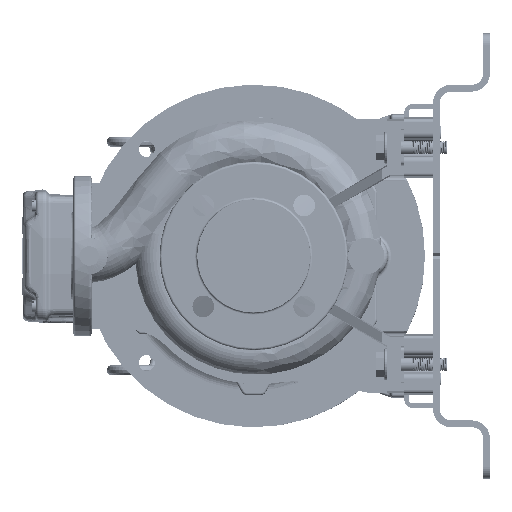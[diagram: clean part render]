
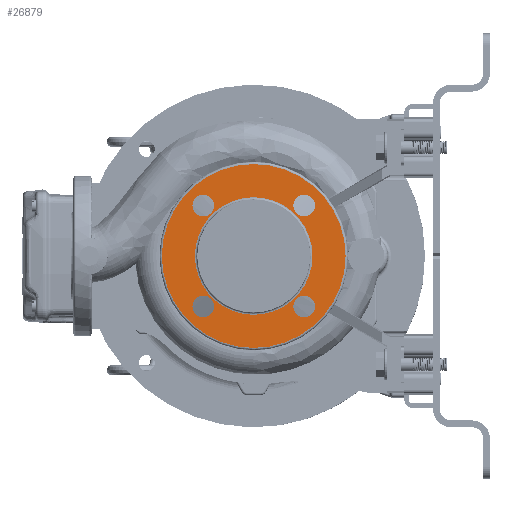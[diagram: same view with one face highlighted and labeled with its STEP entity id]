
A CAD part, left-side view. The second image highlights one B-rep face of the part: STEP entity #26879.
In plain terms, the highlighted planar face has unit normal (-1, 0, 0).
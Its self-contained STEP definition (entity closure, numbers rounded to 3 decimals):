
#75 = VERTEX_POINT ( 'NONE', #15928 ) ;
#742 = CIRCLE ( 'NONE', #62482, 9.5 ) ;
#1078 = CARTESIAN_POINT ( 'NONE',  ( -120.82, 223.159, 279.741 ) ) ;
#1136 = CARTESIAN_POINT ( 'NONE',  ( -120.82, 171.659, 279.741 ) ) ;
#5306 = DIRECTION ( 'NONE',  ( -1., 0., 0. ) ) ;
#6194 = EDGE_LOOP ( 'NONE', ( #120608, #28625 ) ) ;
#7750 = EDGE_CURVE ( 'NONE', #91010, #124955, #135408, .T. ) ;
#8225 = AXIS2_PLACEMENT_3D ( 'NONE', #20159, #116742, #103853 ) ;
#9060 = DIRECTION ( 'NONE',  ( 0., -1., 0. ) ) ;
#11325 = DIRECTION ( 'NONE',  ( 1., 0., 0. ) ) ;
#15783 = VERTEX_POINT ( 'NONE', #136907 ) ;
#15928 = CARTESIAN_POINT ( 'NONE',  ( -120.82, 91.159, 279.741 ) ) ;
#16749 = DIRECTION ( 'NONE',  ( 0., -1., 0. ) ) ;
#17593 = DIRECTION ( 'NONE',  ( 0., 1., 0. ) ) ;
#18482 = ORIENTED_EDGE ( 'NONE', *, *, #96936, .F. ) ;
#19397 = DIRECTION ( 'NONE',  ( -1., 0., 0. ) ) ;
#20159 = CARTESIAN_POINT ( 'NONE',  ( -120.82, 127.465, 323.935 ) ) ;
#21453 = EDGE_CURVE ( 'NONE', #175522, #84592, #87506, .T. ) ;
#22190 = ORIENTED_EDGE ( 'NONE', *, *, #73751, .F. ) ;
#23917 = DIRECTION ( 'NONE',  ( 0., -1., 0. ) ) ;
#25124 = DIRECTION ( 'NONE',  ( 0., 1., 0. ) ) ;
#26879 = ADVANCED_FACE ( 'NONE', ( #39804, #78455, #64717, #120778, #95005, #177731 ), #179565, .F. ) ;
#27716 = CARTESIAN_POINT ( 'NONE',  ( -120.82, 136.965, 323.935 ) ) ;
#28625 = ORIENTED_EDGE ( 'NONE', *, *, #133973, .T. ) ;
#29987 = CARTESIAN_POINT ( 'NONE',  ( -120.82, 171.659, 279.741 ) ) ;
#30274 = CIRCLE ( 'NONE', #91949, 9.5 ) ;
#36032 = CIRCLE ( 'NONE', #85900, 51.5 ) ;
#37780 = EDGE_CURVE ( 'NONE', #179831, #15783, #30274, .T. ) ;
#39360 = VERTEX_POINT ( 'NONE', #60116 ) ;
#39804 = FACE_BOUND ( 'NONE', #93196, .T. ) ;
#43849 = AXIS2_PLACEMENT_3D ( 'NONE', #144646, #72846, #141012 ) ;
#45133 = DIRECTION ( 'NONE',  ( -1., 0., 0. ) ) ;
#45766 = DIRECTION ( 'NONE',  ( 0., 0., 1. ) ) ;
#45934 = EDGE_CURVE ( 'NONE', #173739, #141527, #36032, .T. ) ;
#46725 = EDGE_CURVE ( 'NONE', #122219, #39360, #112837, .T. ) ;
#48217 = ORIENTED_EDGE ( 'NONE', *, *, #46725, .F. ) ;
#52180 = DIRECTION ( 'NONE',  ( 0., -1., 0. ) ) ;
#54142 = EDGE_LOOP ( 'NONE', ( #151831, #18482 ) ) ;
#54160 = AXIS2_PLACEMENT_3D ( 'NONE', #107440, #163504, #9060 ) ;
#56107 = AXIS2_PLACEMENT_3D ( 'NONE', #171985, #19397, #17593 ) ;
#58493 = DIRECTION ( 'NONE',  ( -1., 0., 0. ) ) ;
#60116 = CARTESIAN_POINT ( 'NONE',  ( -120.82, 225.353, 323.935 ) ) ;
#60793 = DIRECTION ( 'NONE',  ( 0., 1., 0. ) ) ;
#62482 = AXIS2_PLACEMENT_3D ( 'NONE', #177609, #81064, #107743 ) ;
#64717 = FACE_BOUND ( 'NONE', #113351, .T. ) ;
#66629 = ORIENTED_EDGE ( 'NONE', *, *, #150835, .F. ) ;
#71061 = DIRECTION ( 'NONE',  ( -1., 0., 0. ) ) ;
#71364 = DIRECTION ( 'NONE',  ( 0., -1., 0. ) ) ;
#72293 = CIRCLE ( 'NONE', #75177, 80.5 ) ;
#72846 = DIRECTION ( 'NONE',  ( -1., 0., 0. ) ) ;
#73751 = EDGE_CURVE ( 'NONE', #39360, #122219, #121517, .T. ) ;
#75177 = AXIS2_PLACEMENT_3D ( 'NONE', #29987, #58493, #71364 ) ;
#78455 = FACE_BOUND ( 'NONE', #54142, .T. ) ;
#81064 = DIRECTION ( 'NONE',  ( -1., 0., 0. ) ) ;
#84592 = VERTEX_POINT ( 'NONE', #27716 ) ;
#85900 = AXIS2_PLACEMENT_3D ( 'NONE', #96296, #152445, #52180 ) ;
#85905 = ORIENTED_EDGE ( 'NONE', *, *, #21453, .F. ) ;
#86742 = CARTESIAN_POINT ( 'NONE',  ( -120.82, 120.159, 279.741 ) ) ;
#87506 = CIRCLE ( 'NONE', #8225, 9.5 ) ;
#88364 = CIRCLE ( 'NONE', #111870, 51.5 ) ;
#89251 = CARTESIAN_POINT ( 'NONE',  ( -120.82, 127.465, 235.546 ) ) ;
#91010 = VERTEX_POINT ( 'NONE', #109779 ) ;
#91949 = AXIS2_PLACEMENT_3D ( 'NONE', #130418, #5306, #45766 ) ;
#92716 = CIRCLE ( 'NONE', #116226, 9.5 ) ;
#93196 = EDGE_LOOP ( 'NONE', ( #85905, #66629 ) ) ;
#95005 = FACE_BOUND ( 'NONE', #166900, .T. ) ;
#95591 = ORIENTED_EDGE ( 'NONE', *, *, #115482, .F. ) ;
#96296 = CARTESIAN_POINT ( 'NONE',  ( -120.82, 171.659, 279.741 ) ) ;
#96936 = EDGE_CURVE ( 'NONE', #124955, #91010, #114074, .T. ) ;
#100434 = EDGE_LOOP ( 'NONE', ( #48217, #22190 ) ) ;
#103853 = DIRECTION ( 'NONE',  ( 0., 0., -1. ) ) ;
#106672 = CARTESIAN_POINT ( 'NONE',  ( -120.82, 215.853, 323.935 ) ) ;
#107440 = CARTESIAN_POINT ( 'NONE',  ( -120.82, 215.853, 323.935 ) ) ;
#107743 = DIRECTION ( 'NONE',  ( 0., 0., 1. ) ) ;
#109779 = CARTESIAN_POINT ( 'NONE',  ( -120.82, 117.965, 235.546 ) ) ;
#111468 = CIRCLE ( 'NONE', #43849, 80.5 ) ;
#111870 = AXIS2_PLACEMENT_3D ( 'NONE', #1136, #71061, #16749 ) ;
#112837 = CIRCLE ( 'NONE', #54160, 9.5 ) ;
#113351 = EDGE_LOOP ( 'NONE', ( #95591, #175057 ) ) ;
#113943 = CARTESIAN_POINT ( 'NONE',  ( -120.82, 225.353, 235.546 ) ) ;
#113964 = CARTESIAN_POINT ( 'NONE',  ( -120.82, 252.159, 279.741 ) ) ;
#114074 = CIRCLE ( 'NONE', #149298, 9.5 ) ;
#115482 = EDGE_CURVE ( 'NONE', #15783, #179831, #742, .T. ) ;
#116226 = AXIS2_PLACEMENT_3D ( 'NONE', #134496, #175841, #118865 ) ;
#116742 = DIRECTION ( 'NONE',  ( -1., 0., 0. ) ) ;
#118865 = DIRECTION ( 'NONE',  ( 0., 0., -1. ) ) ;
#119641 = ORIENTED_EDGE ( 'NONE', *, *, #45934, .F. ) ;
#120608 = ORIENTED_EDGE ( 'NONE', *, *, #155656, .T. ) ;
#120778 = FACE_BOUND ( 'NONE', #100434, .T. ) ;
#121517 = CIRCLE ( 'NONE', #133238, 9.5 ) ;
#122219 = VERTEX_POINT ( 'NONE', #152361 ) ;
#124955 = VERTEX_POINT ( 'NONE', #132552 ) ;
#127513 = EDGE_CURVE ( 'NONE', #141527, #173739, #88364, .T. ) ;
#130418 = CARTESIAN_POINT ( 'NONE',  ( -120.82, 215.853, 235.546 ) ) ;
#130612 = ORIENTED_EDGE ( 'NONE', *, *, #127513, .F. ) ;
#131788 = AXIS2_PLACEMENT_3D ( 'NONE', #163029, #11325, #25124 ) ;
#132552 = CARTESIAN_POINT ( 'NONE',  ( -120.82, 136.965, 235.546 ) ) ;
#133238 = AXIS2_PLACEMENT_3D ( 'NONE', #106672, #145637, #23917 ) ;
#133973 = EDGE_CURVE ( 'NONE', #172513, #75, #72293, .T. ) ;
#134496 = CARTESIAN_POINT ( 'NONE',  ( -120.82, 127.465, 323.935 ) ) ;
#135408 = CIRCLE ( 'NONE', #56107, 9.5 ) ;
#136907 = CARTESIAN_POINT ( 'NONE',  ( -120.82, 206.353, 235.546 ) ) ;
#141012 = DIRECTION ( 'NONE',  ( 0., -1., 0. ) ) ;
#141527 = VERTEX_POINT ( 'NONE', #86742 ) ;
#144646 = CARTESIAN_POINT ( 'NONE',  ( -120.82, 171.659, 279.741 ) ) ;
#145637 = DIRECTION ( 'NONE',  ( -1., 0., 0. ) ) ;
#148896 = CARTESIAN_POINT ( 'NONE',  ( -120.82, 117.965, 323.935 ) ) ;
#149298 = AXIS2_PLACEMENT_3D ( 'NONE', #89251, #45133, #60793 ) ;
#150835 = EDGE_CURVE ( 'NONE', #84592, #175522, #92716, .T. ) ;
#151831 = ORIENTED_EDGE ( 'NONE', *, *, #7750, .F. ) ;
#152361 = CARTESIAN_POINT ( 'NONE',  ( -120.82, 206.353, 323.935 ) ) ;
#152445 = DIRECTION ( 'NONE',  ( -1., 0., 0. ) ) ;
#155656 = EDGE_CURVE ( 'NONE', #75, #172513, #111468, .T. ) ;
#163029 = CARTESIAN_POINT ( 'NONE',  ( -120.82, 223.159, 279.741 ) ) ;
#163504 = DIRECTION ( 'NONE',  ( -1., 0., 0. ) ) ;
#166900 = EDGE_LOOP ( 'NONE', ( #130612, #119641 ) ) ;
#171985 = CARTESIAN_POINT ( 'NONE',  ( -120.82, 127.465, 235.546 ) ) ;
#172513 = VERTEX_POINT ( 'NONE', #113964 ) ;
#173739 = VERTEX_POINT ( 'NONE', #1078 ) ;
#175057 = ORIENTED_EDGE ( 'NONE', *, *, #37780, .F. ) ;
#175522 = VERTEX_POINT ( 'NONE', #148896 ) ;
#175841 = DIRECTION ( 'NONE',  ( -1., 0., 0. ) ) ;
#177609 = CARTESIAN_POINT ( 'NONE',  ( -120.82, 215.853, 235.546 ) ) ;
#177731 = FACE_OUTER_BOUND ( 'NONE', #6194, .T. ) ;
#179565 = PLANE ( 'NONE',  #131788 ) ;
#179831 = VERTEX_POINT ( 'NONE', #113943 ) ;
